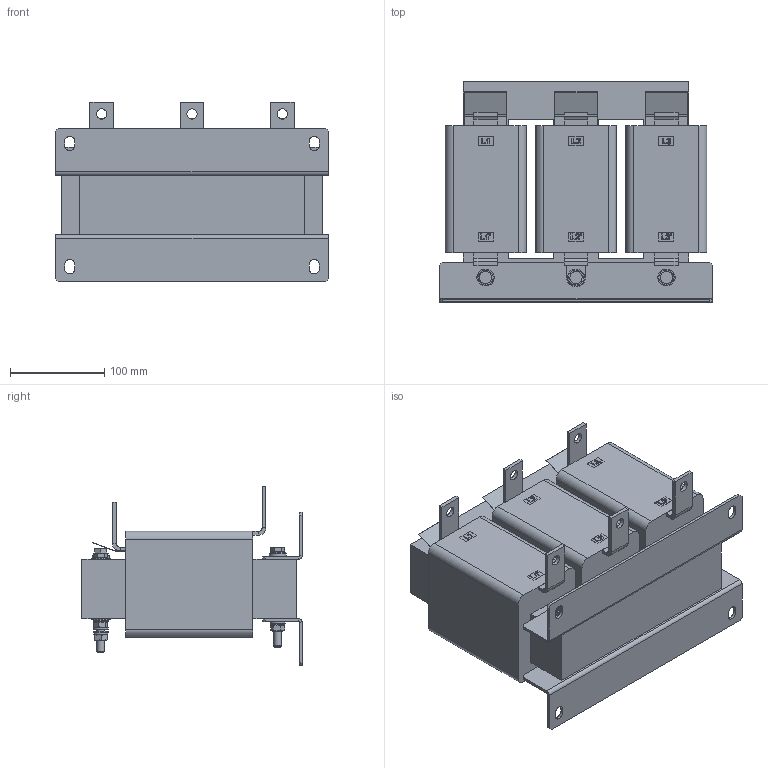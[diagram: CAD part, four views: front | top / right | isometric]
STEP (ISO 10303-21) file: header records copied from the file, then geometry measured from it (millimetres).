
FILE_DESCRIPTION(/* description */ ('raw material description'),/* implementation_level */ '2;1');
FILE_NAME(/* name */ 'P:\Construction\Filter_Marketing\RWK\RWK3044_RWK3062\RWK3044\RWK3044-210-99-E0XXX.stp',/* time_stamp */ '2018-08-27T10:48:00+02:00',/* author */ ('Erika.Jenzer'),/* organization */ ('Schaffner EMV AG'),/* preprocessor_version */ 'ST-DEVELOPER v16.5',/* originating_system */ 'Autodesk Inventor 2017',/* authorisation */ '');
FILE_SCHEMA (('AUTOMOTIVE_DESIGN { 1 0 10303 214 3 1 1 }'));
Length unit declared in the file: millimetre
Products named in the file (1): RWK3044-210-99-E0XXX
Bounding box: 290 x 234 x 190.8 mm (x, y, z)
Volume: 5448025.7 mm3; surface area: 411419.8 mm2
Topology: 1 solids, 11 shells, 1012 faces, 2560 edges, 1686 vertices
Faces by surface type: plane 717, cylinder 167, cone 71, bspline 50, torus 7
Full cylindrical faces by diameter (mm): 8 x19, 8.2 x6, 8.4 x14, 9.9 x5, 10.5 x3, 11 x6, 11.4 x6, 13 x1, 16 x12, 18 x5, 20 x2
Entity records: 30706 total; most frequent: CARTESIAN_POINT 6119, ORIENTED_EDGE 4822, DIRECTION 4552, EDGE_CURVE 2404, LINE 1670, VECTOR 1670, VERTEX_POINT 1646, AXIS2_PLACEMENT_3D 1441
